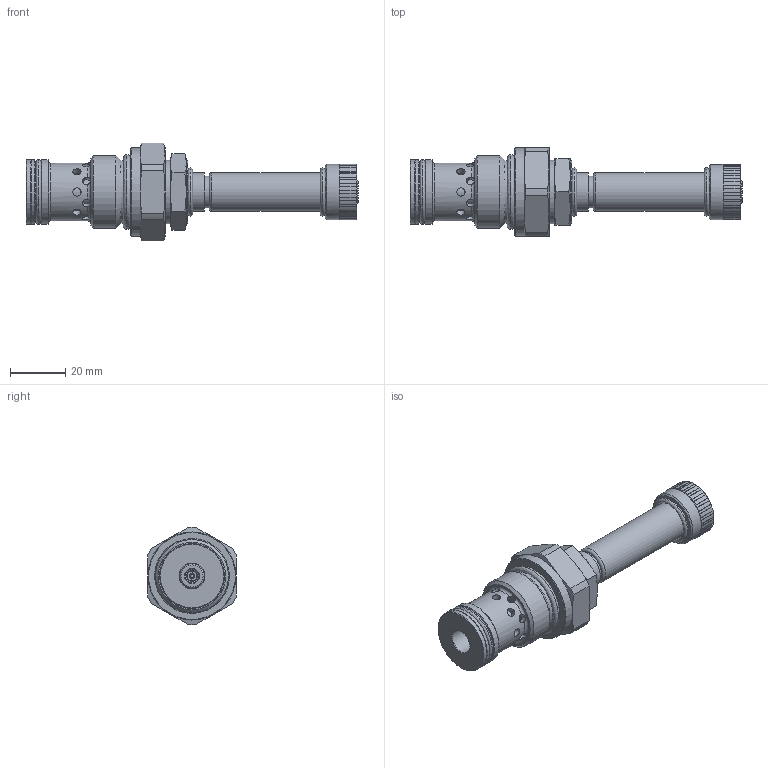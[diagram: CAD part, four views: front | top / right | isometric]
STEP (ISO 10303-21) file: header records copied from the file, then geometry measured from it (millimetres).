
FILE_DESCRIPTION(/* description */ (''),/* implementation_level */ '2;1');
FILE_NAME(/* name */ '\\VAULT_LUEN\Autodesk\STEP\005-554-000.stp',/* time_stamp */ '2017-10-16T13:10:59+02:00',/* author */ ('manuel.piccinini'),/* organization */ ('LUEN s.r.l.'),/* preprocessor_version */ 'ST-DEVELOPER v16.13',/* originating_system */ 'Autodesk Inventor 2018',/* authorisation */ '');
FILE_SCHEMA (('CONFIG_CONTROL_DESIGN'));
Length unit declared in the file: millimetre
Products named in the file (1): 005-554-000_Shrinkwrap_1
Bounding box: 120.6 x 32 x 35.49 mm (x, y, z)
Volume: 230.4 mm3; surface area: 15142 mm2
Topology: 3 solids, 4 shells, 312 faces, 823 edges, 520 vertices
Faces by surface type: plane 130, cylinder 83, cone 76, torus 14, bspline 8, sphere 1
Full cylindrical faces by diameter (mm): 0.5 x1, 0.7 x1, 1.5 x3, 3 x18, 3.242 x1, 4 x1, 5 x1, 8.3 x1, 9 x1, 10 x1, 11.328 x1, 11.5 x1, 13.55 x1, 14 x2, 15 x2, 16.5 x1, 17.323 x1, 20 x1, 20.5 x2, 21 x1, 22.8 x2, 23 x2, 23.5 x3, 26.44 x1, 28 x1, 32 x1
Entity records: 10579 total; most frequent: CARTESIAN_POINT 3106, DIRECTION 1514, ORIENTED_EDGE 1364, EDGE_CURVE 682, AXIS2_PLACEMENT_3D 631, VERTEX_POINT 469, EDGE_LOOP 442, CIRCLE 318
